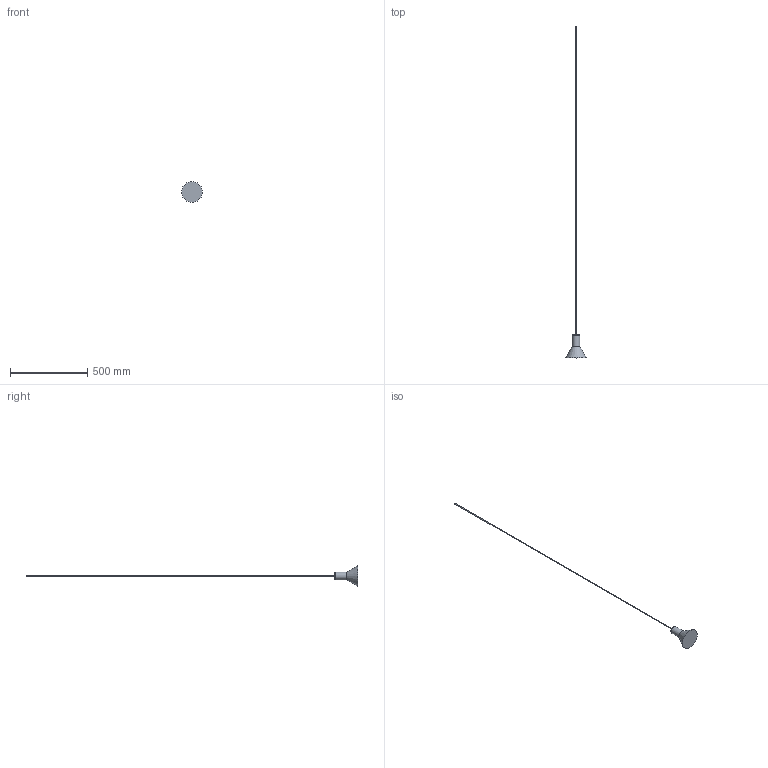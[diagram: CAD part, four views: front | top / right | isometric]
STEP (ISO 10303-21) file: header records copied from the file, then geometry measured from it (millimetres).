
FILE_DESCRIPTION(/* description */ (''),/* implementation_level */ '2;1');
FILE_NAME(/* name */ 'NEURO OUTDOOR.stp',/* time_stamp */ '2023-02-21T17:11:43+01:00',/* author */ ('n.bisotti'),/* organization */ (''),/* preprocessor_version */ 'ST-DEVELOPER v19.2',/* originating_system */ 'Autodesk Inventor 2023',/* authorisation */ '');
FILE_SCHEMA (('AUTOMOTIVE_DESIGN { 1 0 10303 214 3 1 1 }'));
Length unit declared in the file: millimetre
Products named in the file (1): Parte10
Bounding box: 135 x 2147 x 135 mm (x, y, z)
Volume: 715295.5 mm3; surface area: 83979.7 mm2
Topology: 2 solids, 2 shells, 9 faces, 15 edges, 10 vertices
Faces by surface type: plane 4, torus 2, cylinder 2, cone 1
Full cylindrical faces by diameter (mm): 5 x1, 49 x1
Entity records: 263 total; most frequent: DIRECTION 47, CARTESIAN_POINT 35, ORIENTED_EDGE 30, AXIS2_PLACEMENT_3D 22, EDGE_CURVE 15, CIRCLE 12, VERTEX_POINT 10, FACE_OUTER_BOUND 9
